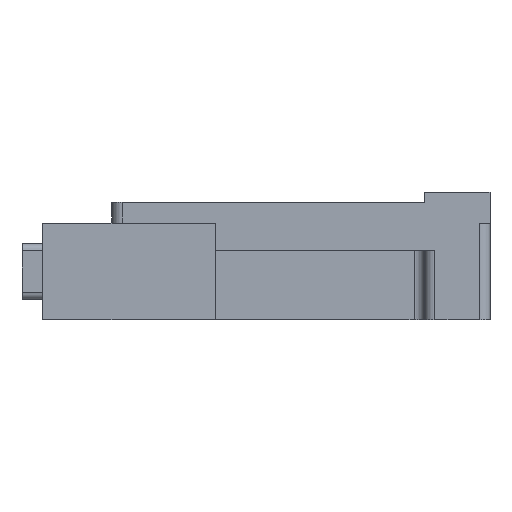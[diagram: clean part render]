
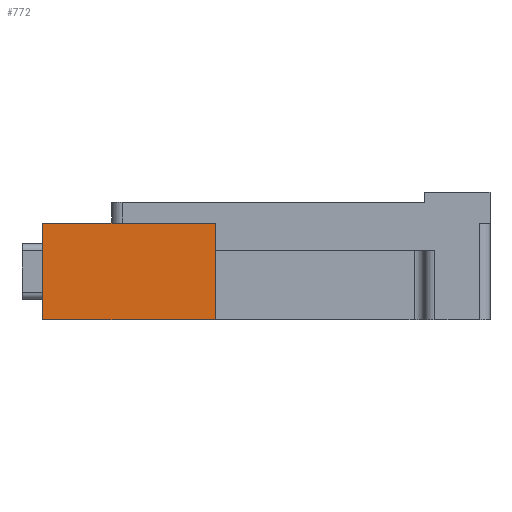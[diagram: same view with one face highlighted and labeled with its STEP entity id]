
A CAD part, front view. The second image highlights one B-rep face of the part: STEP entity #772.
In plain terms, the highlighted planar face has unit normal (0, -1, 0).
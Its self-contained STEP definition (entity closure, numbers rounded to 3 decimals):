
#72 = PLANE('',#73);
#73 = AXIS2_PLACEMENT_3D('',#74,#75,#76);
#74 = CARTESIAN_POINT('',(-155.,0.,0.));
#75 = DIRECTION('',(-1.,-0.,-0.));
#76 = DIRECTION('',(0.,0.,-1.));
#304 = EDGE_CURVE('',#305,#307,#309,.T.);
#305 = VERTEX_POINT('',#306);
#306 = CARTESIAN_POINT('',(-155.,0.,0.));
#307 = VERTEX_POINT('',#308);
#308 = CARTESIAN_POINT('',(-155.,0.,28.));
#309 = SURFACE_CURVE('',#310,(#314,#321),.PCURVE_S1.);
#310 = LINE('',#311,#312);
#311 = CARTESIAN_POINT('',(-155.,0.,0.));
#312 = VECTOR('',#313,1.);
#313 = DIRECTION('',(-0.,-0.,1.));
#314 = PCURVE('',#72,#315);
#315 = DEFINITIONAL_REPRESENTATION('',(#316),#320);
#316 = LINE('',#317,#318);
#317 = CARTESIAN_POINT('',(-0.,-0.));
#318 = VECTOR('',#319,1.);
#319 = DIRECTION('',(-1.,-0.));
#320 = ( GEOMETRIC_REPRESENTATION_CONTEXT(2) 
PARAMETRIC_REPRESENTATION_CONTEXT() REPRESENTATION_CONTEXT('2D SPACE',''
  ) );
#321 = PCURVE('',#322,#327);
#322 = PLANE('',#323);
#323 = AXIS2_PLACEMENT_3D('',#324,#325,#326);
#324 = CARTESIAN_POINT('',(-155.,0.,0.));
#325 = DIRECTION('',(-0.,1.,-0.));
#326 = DIRECTION('',(0.,0.,-1.));
#327 = DEFINITIONAL_REPRESENTATION('',(#328),#332);
#328 = LINE('',#329,#330);
#329 = CARTESIAN_POINT('',(-0.,-0.));
#330 = VECTOR('',#331,1.);
#331 = DIRECTION('',(-1.,0.));
#332 = ( GEOMETRIC_REPRESENTATION_CONTEXT(2) 
PARAMETRIC_REPRESENTATION_CONTEXT() REPRESENTATION_CONTEXT('2D SPACE',''
  ) );
#350 = PLANE('',#351);
#351 = AXIS2_PLACEMENT_3D('',#352,#353,#354);
#352 = CARTESIAN_POINT('',(-155.,0.,0.));
#353 = DIRECTION('',(-0.,-0.,1.));
#354 = DIRECTION('',(1.,0.,0.));
#450 = PLANE('',#451);
#451 = AXIS2_PLACEMENT_3D('',#452,#453,#454);
#452 = CARTESIAN_POINT('',(-155.,0.,28.));
#453 = DIRECTION('',(-0.,-0.,1.));
#454 = DIRECTION('',(1.,0.,0.));
#772 = ADVANCED_FACE('',(#773),#322,.F.);
#773 = FACE_BOUND('',#774,.T.);
#774 = EDGE_LOOP('',(#775,#798,#799,#822));
#775 = ORIENTED_EDGE('',*,*,#776,.F.);
#776 = EDGE_CURVE('',#305,#777,#779,.T.);
#777 = VERTEX_POINT('',#778);
#778 = CARTESIAN_POINT('',(-205.,0.,0.));
#779 = SURFACE_CURVE('',#780,(#784,#791),.PCURVE_S1.);
#780 = LINE('',#781,#782);
#781 = CARTESIAN_POINT('',(-155.,0.,0.));
#782 = VECTOR('',#783,1.);
#783 = DIRECTION('',(-1.,-0.,-0.));
#784 = PCURVE('',#322,#785);
#785 = DEFINITIONAL_REPRESENTATION('',(#786),#790);
#786 = LINE('',#787,#788);
#787 = CARTESIAN_POINT('',(-0.,-0.));
#788 = VECTOR('',#789,1.);
#789 = DIRECTION('',(-0.,1.));
#790 = ( GEOMETRIC_REPRESENTATION_CONTEXT(2) 
PARAMETRIC_REPRESENTATION_CONTEXT() REPRESENTATION_CONTEXT('2D SPACE',''
  ) );
#791 = PCURVE('',#350,#792);
#792 = DEFINITIONAL_REPRESENTATION('',(#793),#797);
#793 = LINE('',#794,#795);
#794 = CARTESIAN_POINT('',(0.,-0.));
#795 = VECTOR('',#796,1.);
#796 = DIRECTION('',(-1.,0.));
#797 = ( GEOMETRIC_REPRESENTATION_CONTEXT(2) 
PARAMETRIC_REPRESENTATION_CONTEXT() REPRESENTATION_CONTEXT('2D SPACE',''
  ) );
#798 = ORIENTED_EDGE('',*,*,#304,.T.);
#799 = ORIENTED_EDGE('',*,*,#800,.F.);
#800 = EDGE_CURVE('',#801,#307,#803,.T.);
#801 = VERTEX_POINT('',#802);
#802 = CARTESIAN_POINT('',(-205.,0.,28.));
#803 = SURFACE_CURVE('',#804,(#808,#815),.PCURVE_S1.);
#804 = LINE('',#805,#806);
#805 = CARTESIAN_POINT('',(-205.,0.,28.));
#806 = VECTOR('',#807,1.);
#807 = DIRECTION('',(1.,-0.,-0.));
#808 = PCURVE('',#322,#809);
#809 = DEFINITIONAL_REPRESENTATION('',(#810),#814);
#810 = LINE('',#811,#812);
#811 = CARTESIAN_POINT('',(-28.,50.));
#812 = VECTOR('',#813,1.);
#813 = DIRECTION('',(-0.,-1.));
#814 = ( GEOMETRIC_REPRESENTATION_CONTEXT(2) 
PARAMETRIC_REPRESENTATION_CONTEXT() REPRESENTATION_CONTEXT('2D SPACE',''
  ) );
#815 = PCURVE('',#450,#816);
#816 = DEFINITIONAL_REPRESENTATION('',(#817),#821);
#817 = LINE('',#818,#819);
#818 = CARTESIAN_POINT('',(-50.,0.));
#819 = VECTOR('',#820,1.);
#820 = DIRECTION('',(1.,-0.));
#821 = ( GEOMETRIC_REPRESENTATION_CONTEXT(2) 
PARAMETRIC_REPRESENTATION_CONTEXT() REPRESENTATION_CONTEXT('2D SPACE',''
  ) );
#822 = ORIENTED_EDGE('',*,*,#823,.F.);
#823 = EDGE_CURVE('',#777,#801,#824,.T.);
#824 = SURFACE_CURVE('',#825,(#829,#836),.PCURVE_S1.);
#825 = LINE('',#826,#827);
#826 = CARTESIAN_POINT('',(-205.,0.,0.));
#827 = VECTOR('',#828,1.);
#828 = DIRECTION('',(0.,0.,1.));
#829 = PCURVE('',#322,#830);
#830 = DEFINITIONAL_REPRESENTATION('',(#831),#835);
#831 = LINE('',#832,#833);
#832 = CARTESIAN_POINT('',(-0.,50.));
#833 = VECTOR('',#834,1.);
#834 = DIRECTION('',(-1.,-0.));
#835 = ( GEOMETRIC_REPRESENTATION_CONTEXT(2) 
PARAMETRIC_REPRESENTATION_CONTEXT() REPRESENTATION_CONTEXT('2D SPACE',''
  ) );
#836 = PCURVE('',#837,#842);
#837 = PLANE('',#838);
#838 = AXIS2_PLACEMENT_3D('',#839,#840,#841);
#839 = CARTESIAN_POINT('',(-205.,0.,0.));
#840 = DIRECTION('',(-1.,-0.,-0.));
#841 = DIRECTION('',(0.,0.,-1.));
#842 = DEFINITIONAL_REPRESENTATION('',(#843),#847);
#843 = LINE('',#844,#845);
#844 = CARTESIAN_POINT('',(-0.,-0.));
#845 = VECTOR('',#846,1.);
#846 = DIRECTION('',(-1.,-0.));
#847 = ( GEOMETRIC_REPRESENTATION_CONTEXT(2) 
PARAMETRIC_REPRESENTATION_CONTEXT() REPRESENTATION_CONTEXT('2D SPACE',''
  ) );
